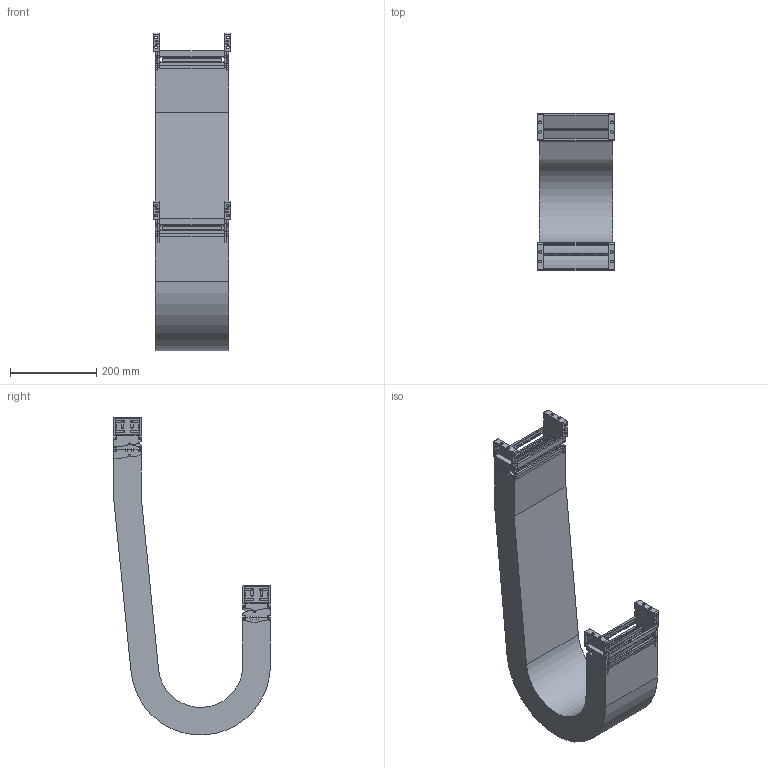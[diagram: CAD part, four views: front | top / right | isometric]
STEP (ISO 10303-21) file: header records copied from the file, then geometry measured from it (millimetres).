
FILE_DESCRIPTION((''),'2;1');
FILE_NAME('KST-50150-125_ASM','2017-12-08T',('KUNI004K'),(''),'PRO/ENGINEER BY PARAMETRIC TECHNOLOGY CORPORATION, 2015200','PRO/ENGINEER BY PARAMETRIC TECHNOLOGY CORPORATION, 2015200','');
FILE_SCHEMA(('AUTOMOTIVE_DESIGN { 1 0 10303 214 1 1 1 1 }'));
Length unit declared in the file: millimetre
Products named in the file (13): 50FBR; 50FBL; 40150C; KST50FB_W150_ASM; KST50125R; KST50125L; 40150H; KST50150-125_1_ASM; KST50150_R125_BODY; 50MBR; 50MBL; KST50MB_W150_ASM; KST-50150-125_ASM
Assembly tree (19 placements, depth 3):
  KST-50150-125_ASM
    KST50FB_W150_ASM
      50FBR
      50FBL
      40150C  x2
    KST50150-125_1_ASM  x2
      KST50125R
      KST50125L
      40150C
      40150H
    KST50150_R125_BODY
    KST50MB_W150_ASM
      50MBR
      50MBL
      40150C  x2
Bounding box: 178 x 364 x 737.35 mm (x, y, z)
Volume: 3671623.5 mm3; surface area: 1379224.1 mm2
Topology: 21 solids, 21 shells, 3032 faces, 8334 edges, 5372 vertices
Faces by surface type: plane 1606, cylinder 1050, bspline 308, torus 68
Entity records: 71542 total; most frequent: CARTESIAN_POINT 14341, ORIENTED_EDGE 7688, DIRECTION 6978, PRESENTATION_STYLE_ASSIGNMENT 5240, STYLED_ITEM 5240, CURVE_STYLE 3844, EDGE_CURVE 3844, VECTOR 2502
